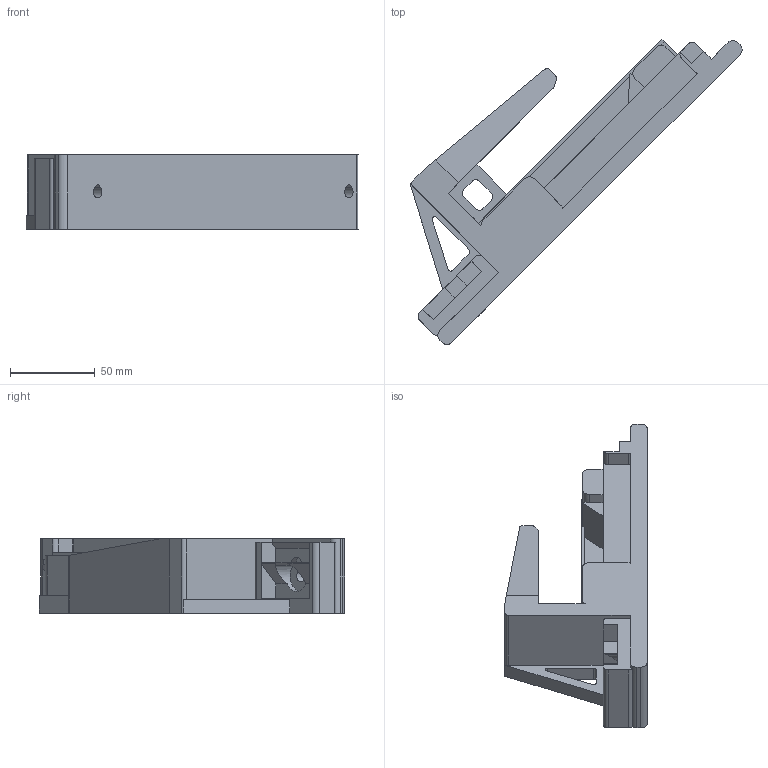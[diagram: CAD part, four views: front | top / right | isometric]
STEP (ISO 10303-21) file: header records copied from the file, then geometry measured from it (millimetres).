
FILE_DESCRIPTION(('FreeCAD Model'),'2;1');
FILE_NAME('Open CASCADE Shape Model','2026-09-08T07:02:33',('FreeCAD'),( 'FreeCAD'),'Open CASCADE STEP processor 7.8','FreeCAD','Unknown');
FILE_SCHEMA(('AUTOMOTIVE_DESIGN { 1 0 10303 214 1 1 1 1 }'));
Length unit declared in the file: millimetre
Products named in the file (1): Open CASCADE STEP translator 7.8 2
Bounding box: 196.32 x 180.55 x 44 mm (x, y, z)
Volume: 274207 mm3; surface area: 91067.5 mm2
Topology: 1 solids, 6 shells, 172 faces, 480 edges, 320 vertices
Faces by surface type: plane 118, cylinder 54
Entity records: 5537 total; most frequent: CARTESIAN_POINT 973, ORIENTED_EDGE 960, DIRECTION 943, EDGE_CURVE 480, LINE 363, VECTOR 363, VERTEX_POINT 320, AXIS2_PLACEMENT_3D 290
